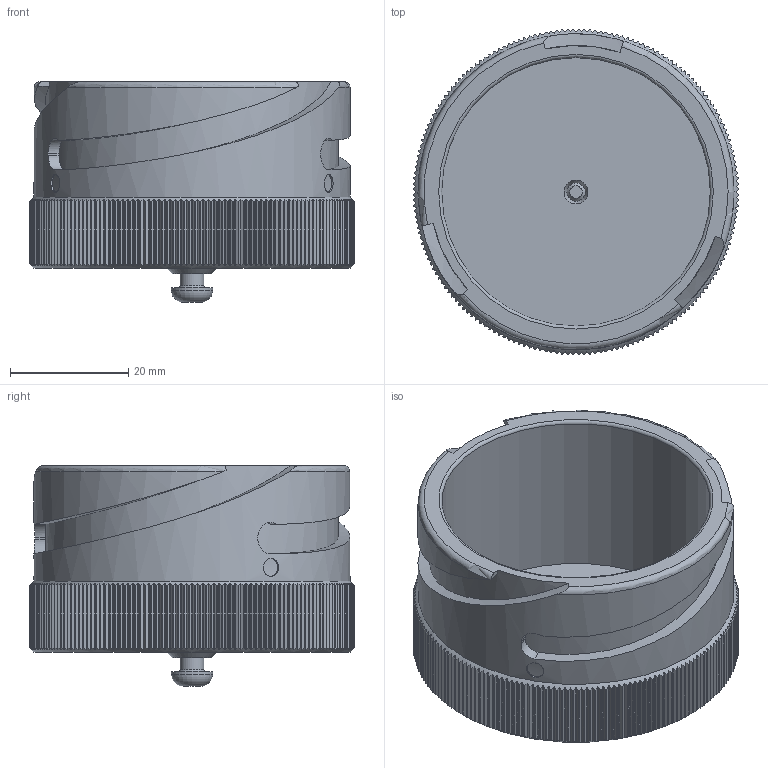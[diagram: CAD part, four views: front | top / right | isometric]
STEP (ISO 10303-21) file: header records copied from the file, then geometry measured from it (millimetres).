
FILE_DESCRIPTION (( 'STEP AP203' ), '1' );
FILE_NAME ('DCAPC-32-D (without chain).STEP', '2021-06-14T12:32:58', ( '' ), ( '' ), 'SwSTEP 2.0', 'SolidWorks 2018', '' );
FILE_SCHEMA (( 'CONFIG_CONTROL_DESIGN' ));
Products named in the file (1): DCAPC-32-D (without chain)
Bounding box: 54.99 x 54.99 x 37.3 mm (x, y, z)
Volume: 22486.6 mm3; surface area: 15324.6 mm2
Topology: 1 solids, 1 shells, 1155 faces, 3433 edges, 2288 vertices
Faces by surface type: cylinder 748, plane 381, bspline 15, torus 6, cone 5
Full cylindrical faces by diameter (mm): 3.1 x1, 4 x1, 7 x1, 45.4 x1, 53.4 x1
Entity records: 52890 total; most frequent: CARTESIAN_POINT 25395, ORIENTED_EDGE 6814, DIRECTION 4190, EDGE_CURVE 3407, VERTEX_POINT 2279, B_SPLINE_CURVE_WITH_KNOTS 1894, AXIS2_PLACEMENT_3D 1537, EDGE_LOOP 1178
